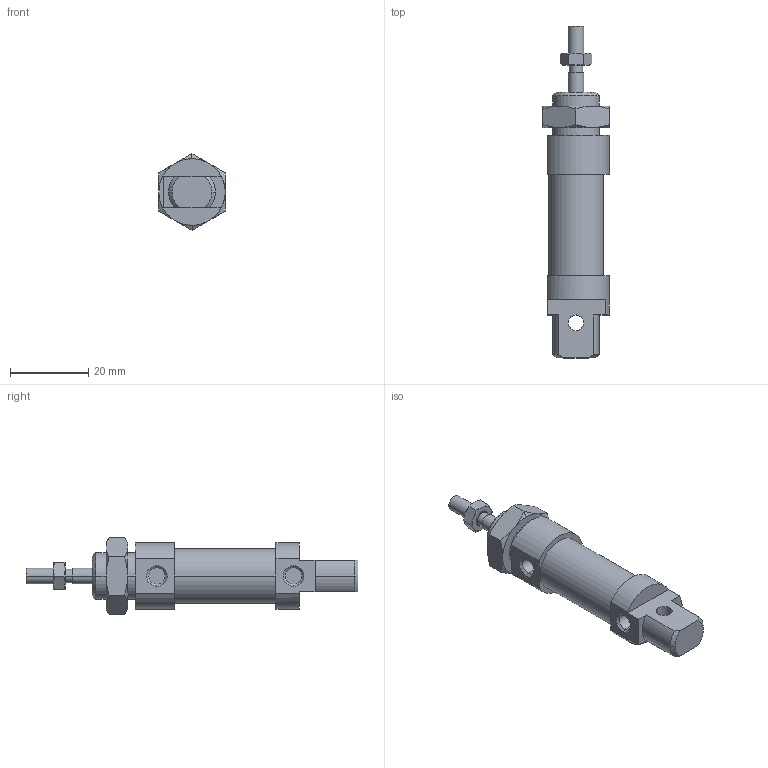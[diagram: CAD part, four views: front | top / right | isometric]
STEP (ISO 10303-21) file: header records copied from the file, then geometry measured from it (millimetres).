
FILE_DESCRIPTION((''),'2;1');
FILE_NAME('I:\DOC-EDP\Lib-3d\1200\CILINDRI\1260\1260_10_0000.stp','2003-04-02T14:55:58',('maffial1'),(''),'Autodesk Inventor (R) 6.0','Autodesk Inventor (R) 6.0','');
FILE_SCHEMA(('AUTOMOTIVE_DESIGN { 1 0 10303 214 1 1 1 1 }'));
Length unit declared in the file: millimetre
Products named in the file (5): 1260_10_0000; S1260_10_0; 1200_10_05; 1200_10_06; C1260_10_0
Assembly tree (4 placements, depth 2):
  1260_10_0000
    S1260_10_0
    1200_10_05
    1200_10_06
    C1260_10_0
Bounding box: 17 x 85 x 19.63 mm (x, y, z)
Volume: 11114.8 mm3; surface area: 5432.5 mm2
Topology: 4 solids, 4 shells, 116 faces, 252 edges, 152 vertices
Faces by surface type: cone 40, plane 34, cylinder 22, bspline 20
Entity records: 3475 total; most frequent: CARTESIAN_POINT 945, DIRECTION 522, ORIENTED_EDGE 504, EDGE_CURVE 252, AXIS2_PLACEMENT_3D 217, VERTEX_POINT 152, EDGE_LOOP 130, FACE_OUTER_BOUND 116
